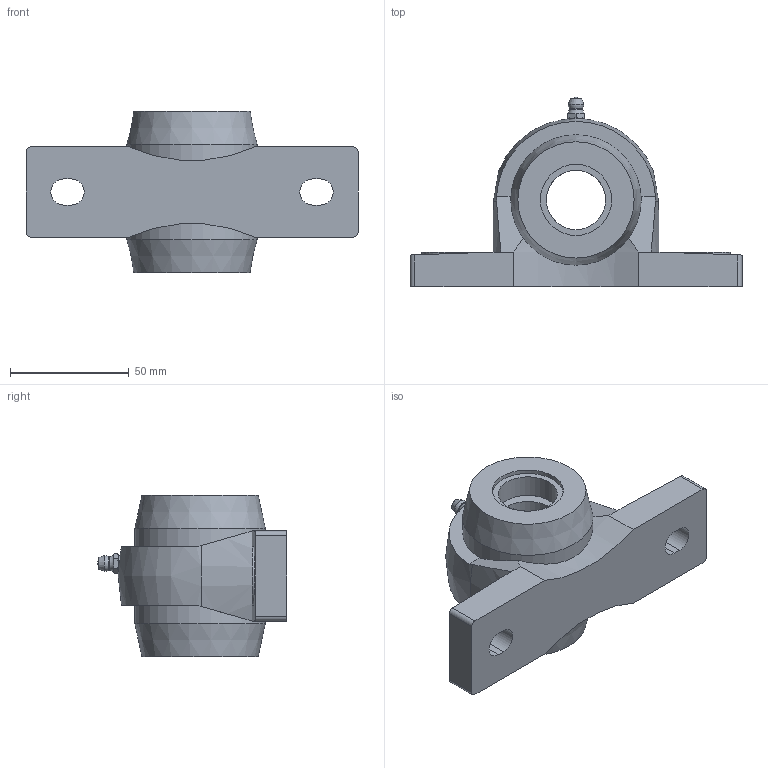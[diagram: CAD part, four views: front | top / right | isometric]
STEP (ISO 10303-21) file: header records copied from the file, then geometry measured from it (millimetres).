
FILE_DESCRIPTION(/* description */ (''),/* implementation_level */ '2;1');
FILE_NAME(/* name */ 'C:\Users\UGijyutu_200702\Desktop\77.プラスチックハウジング\MBPPL200V\MBPPL200VC\MBPPL205VC.stp',/* time_stamp */ '2023-02-10T15:23:45+09:00',/* author */ ('UGijyutu_200702'),/* organization */ (''),/* preprocessor_version */ 'ST-DEVELOPER v18',/* originating_system */ 'Autodesk Inventor 2020',/* authorisation */ '');
FILE_SCHEMA (('AUTOMOTIVE_DESIGN { 1 0 10303 214 3 1 1 }'));
Length unit declared in the file: millimetre
Products named in the file (5): MBPPL205VC; PPL205; MB5 V; 1/4-28UNF-2A; 205C
Assembly tree (5 placements, depth 2):
  MBPPL205VC
    PPL205
    MB5 V
    1/4-28UNF-2A
    205C  x2
Bounding box: 140 x 79.8 x 68.1 mm (x, y, z)
Volume: 161970.7 mm3; surface area: 59801 mm2
Topology: 5 solids, 5 shells, 131 faces, 329 edges, 223 vertices
Faces by surface type: plane 68, cylinder 37, cone 19, sphere 4, torus 2, bspline 1
Full cylindrical faces by diameter (mm): 3.2 x1, 5 x2, 5.359 x1, 6.35 x1, 25 x3, 30 x2, 34 x1, 40.6 x2, 51.4 x2, 54.8 x2, 55 x2
Entity records: 4183 total; most frequent: CARTESIAN_POINT 965, DIRECTION 641, ORIENTED_EDGE 606, EDGE_CURVE 303, AXIS2_PLACEMENT_3D 256, VERTEX_POINT 205, EDGE_LOOP 144, LINE 129
